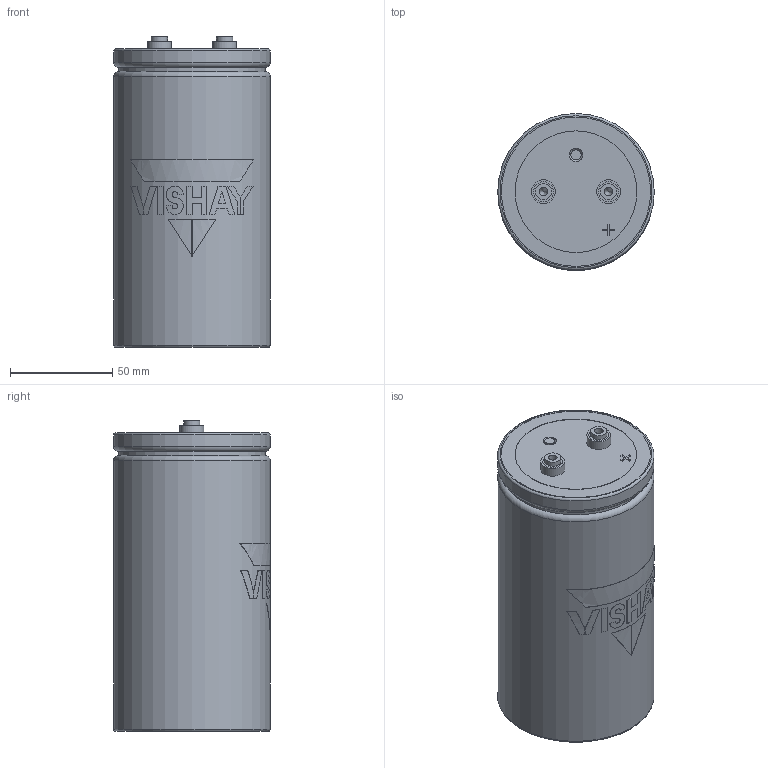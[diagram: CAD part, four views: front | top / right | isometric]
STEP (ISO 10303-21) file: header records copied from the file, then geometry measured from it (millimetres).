
FILE_DESCRIPTION(('FreeCAD Model'),'2;1');
FILE_NAME('C:/Users/tvandesteeg/Documents/Documents/FreeCAD/Stepfiles/ST capacitors/ST_HP_M5_76x146.step','2020-07-02T17:36:52',('Author'),(''), 'Open CASCADE STEP processor 7.3','FreeCAD','Unknown');
FILE_SCHEMA(('AUTOMOTIVE_DESIGN { 1 0 10303 214 1 1 1 1 }'));
Length unit declared in the file: millimetre
Products named in the file (7): VentBody; TerminalBody_(Mirror_#2); TerminalBody; Disc; LogoPrint; CanBody; BottomBody
Bounding box: 76.4 x 76.5 x 151.7 mm (x, y, z)
Volume: 662915.9 mm3; surface area: 70013.9 mm2
Topology: 17 solids, 17 shells, 149 faces, 313 edges, 206 vertices
Faces by surface type: plane 93, cylinder 48, torus 5, cone 3
Full cylindrical faces by diameter (mm): 4.2 x2, 5 x2, 7.9 x2, 9.8 x6, 11.7 x2, 59.422 x3, 71.4 x1, 72 x2, 76.4 x2
Entity records: 10653 total; most frequent: CARTESIAN_POINT 3357, DIRECTION 1204, ORIENTED_EDGE 622, PCURVE 622, DEFINITIONAL_REPRESENTATION 622, LINE 532, VECTOR 532, EDGE_CURVE 311
